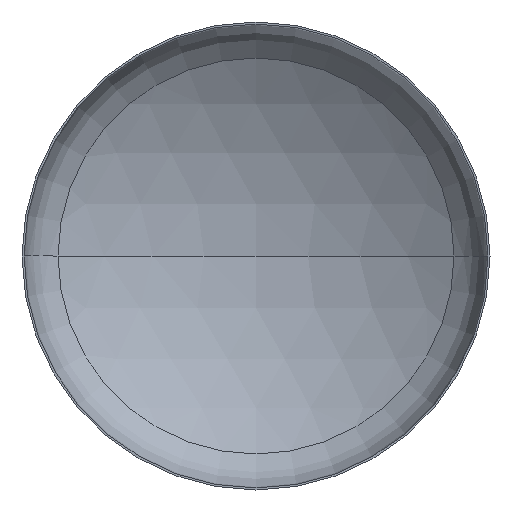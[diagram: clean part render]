
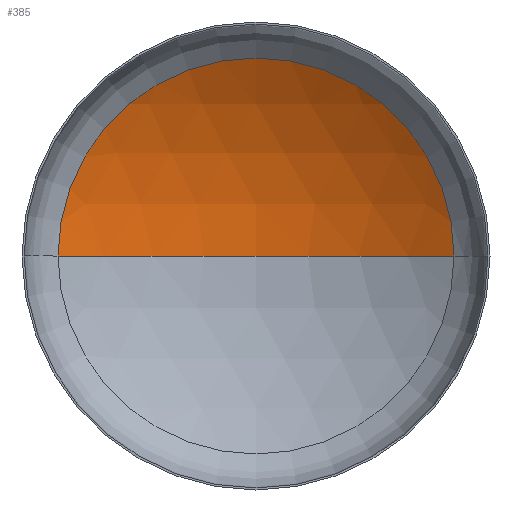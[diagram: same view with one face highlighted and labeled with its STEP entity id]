
A CAD part, front view. The second image highlights one B-rep face of the part: STEP entity #385.
In plain terms, the highlighted spherical face has radius 4000 mm.
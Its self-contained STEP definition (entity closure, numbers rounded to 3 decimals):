
#6 = VERTEX_POINT ( 'NONE', #267 ) ;
#7 = AXIS2_PLACEMENT_3D ( 'NONE', #388, #308, #204 ) ;
#11 = AXIS2_PLACEMENT_3D ( 'NONE', #80, #132, #149 ) ;
#15 = DIRECTION ( 'NONE',  ( 1., 0., 0. ) ) ;
#19 = DIRECTION ( 'NONE',  ( 0., -1., 0. ) ) ;
#29 = EDGE_LOOP ( 'NONE', ( #154, #126, #63 ) ) ;
#39 = VERTEX_POINT ( 'NONE', #292 ) ;
#54 = AXIS2_PLACEMENT_3D ( 'NONE', #152, #19, #15 ) ;
#59 = AXIS2_PLACEMENT_3D ( 'NONE', #306, #156, #96 ) ;
#63 = ORIENTED_EDGE ( 'NONE', *, *, #115, .T. ) ;
#80 = CARTESIAN_POINT ( 'NONE',  ( 0., -2671.466, 0. ) ) ;
#96 = DIRECTION ( 'NONE',  ( -1., 0., 0. ) ) ;
#115 = EDGE_CURVE ( 'NONE', #39, #174, #141, .T. ) ;
#126 = ORIENTED_EDGE ( 'NONE', *, *, #345, .T. ) ;
#132 = DIRECTION ( 'NONE',  ( 0., 0., 1. ) ) ;
#141 = CIRCLE ( 'NONE', #54, 2115.17 ) ;
#149 = DIRECTION ( 'NONE',  ( 1., 0., 0. ) ) ;
#152 = CARTESIAN_POINT ( 'NONE',  ( 0., 723.538, 0. ) ) ;
#154 = ORIENTED_EDGE ( 'NONE', *, *, #346, .F. ) ;
#156 = DIRECTION ( 'NONE',  ( 0., 0., -1. ) ) ;
#174 = VERTEX_POINT ( 'NONE', #390 ) ;
#204 = DIRECTION ( 'NONE',  ( -1., 0., 0. ) ) ;
#230 = FACE_OUTER_BOUND ( 'NONE', #29, .T. ) ;
#248 = CIRCLE ( 'NONE', #11, 4000. ) ;
#267 = CARTESIAN_POINT ( 'NONE',  ( 0., 1328.534, 0. ) ) ;
#292 = CARTESIAN_POINT ( 'NONE',  ( 2115.17, 723.538, 0. ) ) ;
#297 = CIRCLE ( 'NONE', #7, 4000. ) ;
#306 = CARTESIAN_POINT ( 'NONE',  ( 0., -2671.466, 0. ) ) ;
#308 = DIRECTION ( 'NONE',  ( 0., 0., -1. ) ) ;
#345 = EDGE_CURVE ( 'NONE', #6, #39, #297, .T. ) ;
#346 = EDGE_CURVE ( 'NONE', #6, #174, #248, .T. ) ;
#347 = SPHERICAL_SURFACE ( 'NONE', #59, 4000. ) ;
#385 = ADVANCED_FACE ( 'NONE', ( #230 ), #347, .F. ) ;
#388 = CARTESIAN_POINT ( 'NONE',  ( 0., -2671.466, 0. ) ) ;
#390 = CARTESIAN_POINT ( 'NONE',  ( -2115.17, 723.538, 0. ) ) ;
